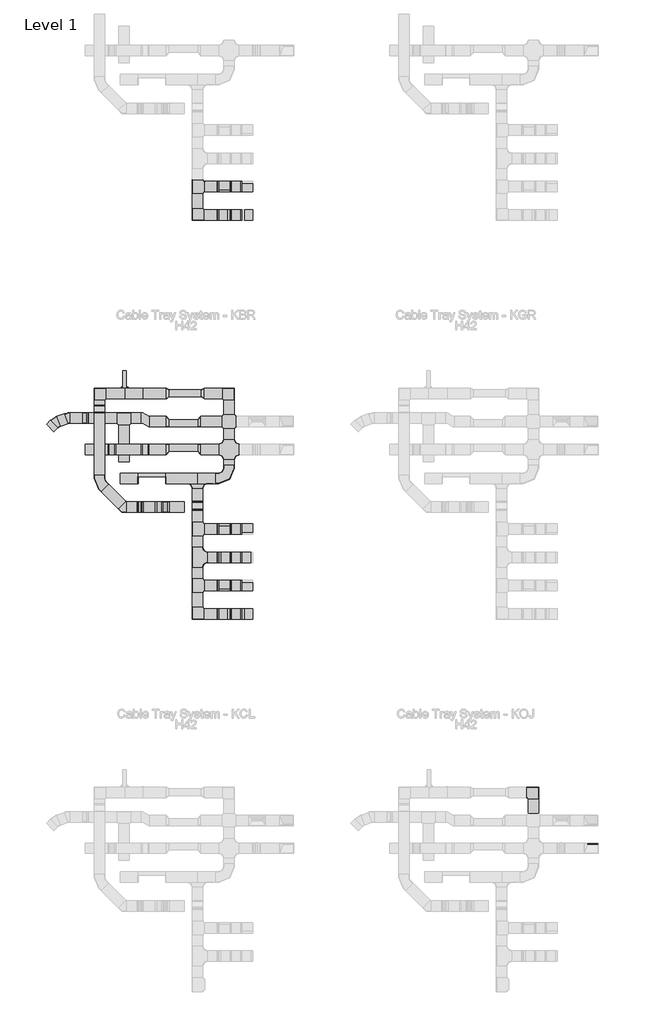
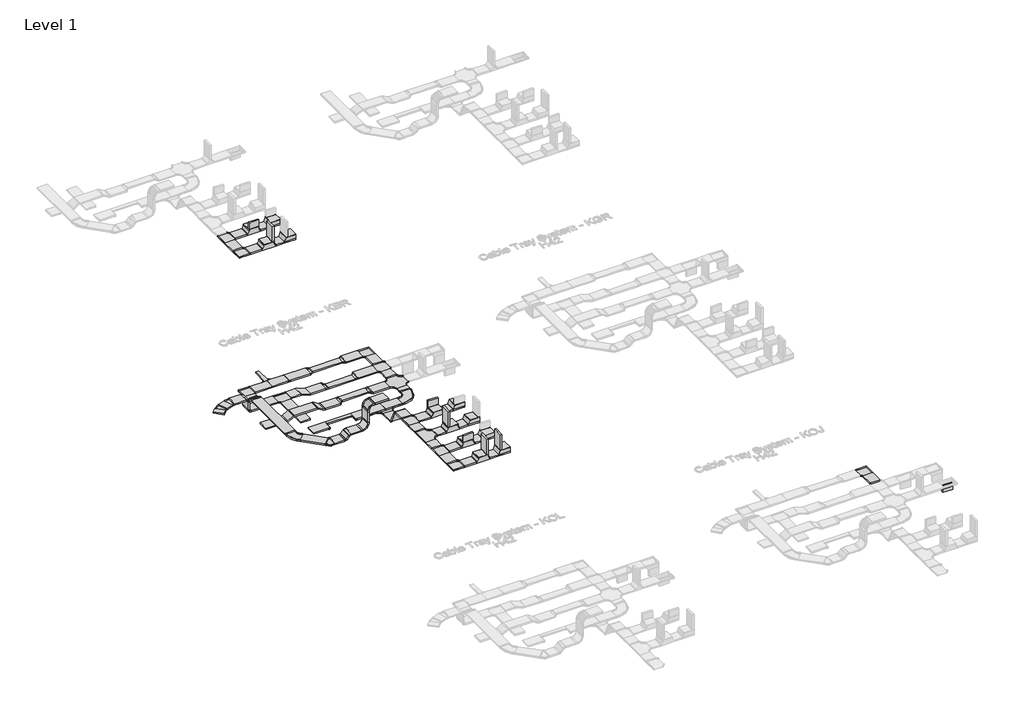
# One storey, part 4 of 32: 64 cable carrier segments, 53 cable carrier fittings.
"""IFC4 building model written with IfcOpenShell, lengths in millimetres."""

from ifc_helpers import new_model, si_unit, frame, origin, place, context, project, spatial, polyline, outline, extrude, transform, mapped, element, save
from components import cable_carrier_fitting_e5c8e40d, cable_carrier_fitting_efa56db2, cable_carrier_fitting_2b67af39, cable_carrier_fitting_94ef316f, cable_carrier_fitting_d4aa8912, cable_carrier_fitting_717dd42d, cable_carrier_fitting_b6ebce7b, cable_carrier_fitting_70c157f5, cable_carrier_fitting_f138ef00, cable_carrier_fitting_e93d4d17, cable_carrier_fitting_1724e2f5, cable_carrier_fitting_f62230c1, cable_carrier_fitting_ae8e9708, cable_carrier_fitting_2d1b2b1b, cable_carrier_fitting_6d558282, cable_carrier_fitting_b296faec, cable_carrier_fitting_47b1af77, cable_carrier_fitting_55953e98, cable_carrier_fitting_c1d9b0e5, cable_carrier_fitting_19ef2403, cable_carrier_fitting_0fee3a18, cable_carrier_fitting_93b13c26, cable_carrier_fitting_9011e538, cable_carrier_fitting_5d3ac796, cable_carrier_fitting_0e05e12f, cable_carrier_fitting_aa4403b1, cable_carrier_fitting_df0feb0d, cable_carrier_fitting_3ff81d9b, cable_carrier_fitting_7d5806c9, cable_carrier_fitting_881c8fdb, cable_carrier_fitting_302010ec, cable_carrier_fitting_0ce080ce, rkj200_h42_828cf9d7, rkj200_h42_37d9c611

model = new_model("IFC4")

# Units and contexts
model_context = context("Model", 3, world=origin())
ifc_project = project(units=[si_unit("LENGTHUNIT", "METRE", prefix="MILLI")], contexts=[model_context])

# Site, building, storey
site = spatial("IfcSite", under=ifc_project)
building = spatial("IfcBuilding", under=site)
storey = spatial("IfcBuildingStorey", under=building, Name="Level 1", Elevation=0.0)

# Cable carrier fittings
placement = place(None, origin())
cable_carrier_fitting_shape = cable_carrier_fitting_e5c8e40d(model_context)
element("IfcCableCarrierFitting", 1, ObjectType="BAKS_SUB_Corner connector : LRJ_H42", at=placement, inside=storey, context=model_context, shape_type="MappedRepresentation", body=[
    mapped(cable_carrier_fitting_shape, transform((-19375.1670538, 58130.8714214, -21.0), x_axis=(-1.0, 0.0, 0.0), y_axis=(0.0, -1.0, 0.0), z_axis=(0.0, 0.0, 1.0))),
])
element("IfcCableCarrierFitting", 2, ObjectType="BAKS_SUB_Corner connector : LRJ_H42", at=placement, inside=storey, context=model_context, shape_type="MappedRepresentation", body=[
    mapped(cable_carrier_fitting_shape, transform((-19275.1670538, 58130.8714214, -21.0), x_axis=(0.0, 1.0, 0.0), y_axis=(-1.0, 0.0, 0.0), z_axis=(0.0, 0.0, 1.0))),
])
cable_carrier_fitting_2_shape = cable_carrier_fitting_efa56db2(model_context)
element("IfcCableCarrierFitting", 3, ObjectType="BAKS_Horizontal bypass : OPZNJ_H42", at=placement, inside=storey, context=model_context, shape_type="MappedRepresentation", body=[
    mapped(cable_carrier_fitting_2_shape, transform((-18722.1670538, 57180.8714214, 0.0), x_axis=(-1.0, 0.0, 0.0), y_axis=(0.0, 1.0, 0.0), z_axis=(0.0, 0.0, -1.0))),
])
cable_carrier_fitting_3_shape = cable_carrier_fitting_2b67af39(model_context)
element("IfcCableCarrierFitting", 4, ObjectType="BAKS_Vertical bypass : OPNNJ_H42", at=placement, inside=storey, context=model_context, shape_type="MappedRepresentation", body=[
    mapped(cable_carrier_fitting_3_shape, transform((-19686.6670538, 56380.8714214, 100.0), x_axis=(-1.0, 0.0, 0.0), y_axis=(0.0, -1.0, 0.0), z_axis=(0.0, 0.0, 1.0))),
])
cable_carrier_fitting_4_shape = cable_carrier_fitting_94ef316f(model_context)
element("IfcCableCarrierFitting", 5, ObjectType="BAKS_Reducer : RK(S/L/P)L_H42", at=placement, inside=storey, context=model_context, shape_type="MappedRepresentation", body=[
    mapped(cable_carrier_fitting_4_shape, transform((-18143.1670538, 57980.8714214, 0.0), x_axis=(1.0, 0.0, 0.0), y_axis=(0.0, 1.0, 0.0), z_axis=(0.0, 0.0, 1.0))),
])
cable_carrier_fitting_5_shape = cable_carrier_fitting_d4aa8912(model_context)
element("IfcCableCarrierFitting", 6, ObjectType="BAKS_Reducer : RK(S/L/P)L_H42", at=placement, inside=storey, context=model_context, shape_type="MappedRepresentation", body=[
    mapped(cable_carrier_fitting_5_shape, transform((-17143.1670538, 57980.8714214, 0.0), x_axis=(1.0, 0.0, 0.0), y_axis=(0.0, 1.0, 0.0), z_axis=(0.0, 0.0, 1.0))),
])
cable_carrier_fitting_6_shape = cable_carrier_fitting_717dd42d(model_context)
element("IfcCableCarrierFitting", 7, ObjectType="BAKS_Horizontal bend : KKBL/KKMBL_H42", at=placement, inside=storey, context=model_context, shape_type="MappedRepresentation", body=[
    mapped(cable_carrier_fitting_6_shape, transform((-16343.1670538, 57980.8714214, 0.0), x_axis=(0.0, 1.0, 0.0), y_axis=(-1.0, 0.0, 0.0), z_axis=(0.0, 0.0, 1.0))),
])
element("IfcCableCarrierFitting", 8, ObjectType="BAKS_Horizontal bend : KKBL/KKMBL_H42", at=placement, inside=storey, context=model_context, shape_type="MappedRepresentation", body=[
    mapped(cable_carrier_fitting_6_shape, transform((-7643.1670538, 46580.8714214, 0.0), x_axis=(0.0, 1.0, 0.0), y_axis=(-1.0, 0.0, 0.0), z_axis=(0.0, 0.0, 1.0))),
])
element("IfcCableCarrierFitting", 9, ObjectType="BAKS_Horizontal bend : KKBL/KKMBL_H42", at=placement, inside=storey, context=model_context, shape_type="MappedRepresentation", body=[
    mapped(cable_carrier_fitting_6_shape, transform((-20043.1670538, 57980.8714214, 0.0), x_axis=(-1.0, 0.0, 0.0), y_axis=(0.0, -1.0, 0.0), z_axis=(0.0, 0.0, 1.0))),
])
element("IfcCableCarrierFitting", 10, ObjectType="BAKS_Horizontal bend : KKBL/KKMBL_H42", at=placement, inside=storey, context=model_context, shape_type="MappedRepresentation", body=[
    mapped(cable_carrier_fitting_6_shape, transform((-17246.1670538, 51682.0146558, 432.5277378), x_axis=(0.0, -1.0, 0.0), y_axis=(1.0, 0.0, 0.0), z_axis=(0.0, 0.0, 1.0))),
])
element("IfcCableCarrierFitting", 11, ObjectType="BAKS_Horizontal bend : KKBL/KKMBL_H42", at=placement, inside=storey, context=model_context, shape_type="MappedRepresentation", body=[
    mapped(cable_carrier_fitting_6_shape, transform((-17246.1670538, 63082.0146558, 432.5277378), x_axis=(0.0, -1.0, 0.0), y_axis=(1.0, 0.0, 0.0), z_axis=(0.0, 0.0, 1.0))),
])
cable_carrier_fitting_7_shape = cable_carrier_fitting_b6ebce7b(model_context)
element("IfcCableCarrierFitting", 12, ObjectType="BAKS_Horizontal tee : TKL_H42", at=placement, inside=storey, context=model_context, shape_type="MappedRepresentation", body=[
    mapped(cable_carrier_fitting_7_shape, transform((-19343.6670538, 57280.8714214, 0.0), x_axis=(1.0, 0.0, 0.0), y_axis=(0.0, 1.0, 0.0), z_axis=(0.0, 0.0, 1.0))),
])
element("IfcCableCarrierFitting", 13, ObjectType="BAKS_Horizontal tee : TKL_H42", at=placement, inside=storey, context=model_context, shape_type="MappedRepresentation", body=[
    mapped(cable_carrier_fitting_7_shape, transform((-17246.1670538, 52489.2974728, 432.5277378), x_axis=(0.0, 1.0, 0.0), y_axis=(-1.0, 0.0, 0.0), z_axis=(0.0, 0.0, 1.0))),
])
element("IfcCableCarrierFitting", 14, ObjectType="BAKS_Horizontal tee : TKL_H42", at=placement, inside=storey, context=model_context, shape_type="MappedRepresentation", body=[
    mapped(cable_carrier_fitting_7_shape, transform((-17246.1670538, 54103.8631068, 432.5277378), x_axis=(0.0, 1.0, 0.0), y_axis=(-1.0, 0.0, 0.0), z_axis=(0.0, 0.0, 1.0))),
])
element("IfcCableCarrierFitting", 15, ObjectType="BAKS_Horizontal tee : TKL_H42", at=placement, inside=storey, context=model_context, shape_type="MappedRepresentation", body=[
    mapped(cable_carrier_fitting_7_shape, transform((-17246.1670538, 63889.2974728, 432.5277378), x_axis=(0.0, 1.0, 0.0), y_axis=(-1.0, 0.0, 0.0), z_axis=(0.0, 0.0, 1.0))),
])
cable_carrier_fitting_8_shape = cable_carrier_fitting_70c157f5(model_context)
element("IfcCableCarrierFitting", 16, ObjectType="BAKS_Reducer : RK(S/L/P)L_H42", at=placement, inside=storey, context=model_context, shape_type="MappedRepresentation", body=[
    mapped(cable_carrier_fitting_8_shape, transform((-18143.1670538, 57180.8714214, 0.0), x_axis=(1.0, 0.0, 0.0), y_axis=(0.0, 1.0, 0.0), z_axis=(0.0, 0.0, 1.0))),
])
element("IfcCableCarrierFitting", 17, ObjectType="BAKS_Reducer : RK(S/L/P)L_H42", at=placement, inside=storey, context=model_context, shape_type="MappedRepresentation", body=[
    mapped(cable_carrier_fitting_8_shape, transform((-17143.1670538, 56380.8714214, 0.0), x_axis=(-1.0, 0.0, 0.0), y_axis=(0.0, -1.0, 0.0), z_axis=(0.0, 0.0, 1.0))),
])
cable_carrier_fitting_9_shape = cable_carrier_fitting_f138ef00(model_context)
element("IfcCableCarrierFitting", 18, ObjectType="BAKS_Reducer : RK(S/L/P)L_H42", at=placement, inside=storey, context=model_context, shape_type="MappedRepresentation", body=[
    mapped(cable_carrier_fitting_9_shape, transform((-17143.1670538, 57180.8714214, 0.0), x_axis=(-1.0, 0.0, 0.0), y_axis=(0.0, -1.0, 0.0), z_axis=(0.0, 0.0, 1.0))),
])
element("IfcCableCarrierFitting", 19, ObjectType="BAKS_Reducer : RK(S/L/P)L_H42", at=placement, inside=storey, context=model_context, shape_type="MappedRepresentation", body=[
    mapped(cable_carrier_fitting_9_shape, transform((-18143.1670538, 56380.8714214, 0.0), x_axis=(1.0, 0.0, 0.0), y_axis=(0.0, 1.0, 0.0), z_axis=(0.0, 0.0, 1.0))),
])
cable_carrier_fitting_10_shape = cable_carrier_fitting_e93d4d17(model_context)
element("IfcCableCarrierFitting", 20, ObjectType="BAKS_Plate connector : LPMU_H42", at=placement, inside=storey, context=model_context, shape_type="MappedRepresentation", body=[
    mapped(cable_carrier_fitting_10_shape, transform((-18803.1670538, 57980.8714214, 0.0), x_axis=(1.0, 0.0, 0.0), y_axis=(0.0, 1.0, 0.0), z_axis=(0.0, 0.0, 1.0))),
])
cable_carrier_fitting_11_shape = cable_carrier_fitting_1724e2f5(model_context)
element("IfcCableCarrierFitting", 21, ObjectType="BAKS_Vertical bypass : OPNNJ_H42", at=placement, inside=storey, context=model_context, shape_type="MappedRepresentation", body=[
    mapped(cable_carrier_fitting_11_shape, transform((-18743.6670538, 56380.8714214, 0.0), x_axis=(-1.0, 0.0, 0.0), y_axis=(0.0, -1.0, 0.0), z_axis=(0.0, 0.0, 1.0))),
])
element("IfcCableCarrierFitting", 22, ObjectType="BAKS_Vertical bypass : OPNNJ_H42", at=placement, inside=storey, context=model_context, shape_type="MappedRepresentation", body=[
    mapped(cable_carrier_fitting_11_shape, transform((-20043.1670538, 57539.3714214, 0.0), x_axis=(0.0, -1.0, 0.0), y_axis=(1.0, 0.0, 0.0), z_axis=(0.0, 0.0, 1.0))),
])
cable_carrier_fitting_12_shape = cable_carrier_fitting_f62230c1(model_context)
element("IfcCableCarrierFitting", 23, ObjectType="BAKS_Vertical bend LU : LUNJ/LUMNJ_H42", at=placement, inside=storey, context=model_context, shape_type="MappedRepresentation", body=[
    mapped(cable_carrier_fitting_12_shape, transform((-20443.6670538, 57280.8714214, 0.0), x_axis=(-1.0, 0.0, 0.0), y_axis=(0.0, 0.0, 1.0), z_axis=(0.0, 1.0, 0.0))),
])
element("IfcCableCarrierFitting", 24, ObjectType="BAKS_Vertical bend LU : LUNJ/LUMNJ_H42", at=placement, inside=storey, context=model_context, shape_type="MappedRepresentation", body=[
    mapped(cable_carrier_fitting_12_shape, transform((-20443.6670538, 57280.8714214, 400.0), x_axis=(0.0, 0.0, 1.0), y_axis=(-1.0, 0.0, 0.0), z_axis=(0.0, -1.0, 0.0))),
])
cable_carrier_fitting_13_shape = cable_carrier_fitting_ae8e9708(model_context)
element("IfcCableCarrierFitting", 25, ObjectType="BAKS_Horizontal bend : KKBL/KKMBL_H42", at=placement, inside=storey, context=model_context, shape_type="MappedRepresentation", body=[
    mapped(cable_carrier_fitting_13_shape, transform((-19343.6670538, 54731.3714214, 100.0), x_axis=(0.7071067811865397, -0.7071067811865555, 0.0), y_axis=(0.7071067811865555, 0.7071067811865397, 0.0), z_axis=(0.0, 0.0, 1.0))),
])
cable_carrier_fitting_14_shape = cable_carrier_fitting_2d1b2b1b(model_context)
element("IfcCableCarrierFitting", 26, ObjectType="BAKS_Vertical bend LU : LUNJ/LUMNJ_H42", at=placement, inside=storey, context=model_context, shape_type="MappedRepresentation", body=[
    mapped(cable_carrier_fitting_14_shape, transform((-18943.6670538, 54731.3714214, 100.0), x_axis=(1.0, 0.0, 0.0), y_axis=(0.0, 0.0, 1.0), z_axis=(0.0, -1.0, 0.0))),
])
element("IfcCableCarrierFitting", 27, ObjectType="BAKS_Vertical bend LU : LUNJ/LUMNJ_H42", at=placement, inside=storey, context=model_context, shape_type="MappedRepresentation", body=[
    mapped(cable_carrier_fitting_14_shape, transform((-18806.2659001, 54731.3714214, 237.4011537), x_axis=(0.7071067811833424, 0.0, 0.7071067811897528), y_axis=(0.7071067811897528, 0.0, -0.7071067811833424), z_axis=(0.0, 1.0, 0.0))),
])
cable_carrier_fitting_15_shape = cable_carrier_fitting_6d558282(model_context)
element("IfcCableCarrierFitting", 28, ObjectType="BAKS_Vertical bend adjustable : LLL/LLJ_H42", at=placement, inside=storey, context=model_context, shape_type="MappedRepresentation", body=[
    mapped(cable_carrier_fitting_15_shape, transform((-18246.2659001, 54731.3714214, 237.4011537), x_axis=(1.0, 0.0, 0.0), y_axis=(0.0, 0.0, 1.0), z_axis=(0.0, -1.0, 0.0))),
])
element("IfcCableCarrierFitting", 29, ObjectType="BAKS_Vertical bend adjustable : LLL/LLJ_H42", at=placement, inside=storey, context=model_context, shape_type="MappedRepresentation", body=[
    mapped(cable_carrier_fitting_15_shape, transform((-18246.2659001, 54731.3714214, 977.4011537), x_axis=(0.0, 0.0, 1.0), y_axis=(1.0, 0.0, 0.0), z_axis=(0.0, 1.0, 0.0))),
])
cable_carrier_fitting_16_shape = cable_carrier_fitting_b296faec(model_context)
element("IfcCableCarrierFitting", 30, ObjectType="BAKS_Horizontal addon tee : TKDJ_H42", at=placement, inside=storey, context=model_context, shape_type="MappedRepresentation", body=[
    mapped(cable_carrier_fitting_16_shape, transform((-17246.1670538, 55555.8714214, 0.0), x_axis=(1.0, 0.0, 0.0), y_axis=(0.0, 1.0, 0.0), z_axis=(0.0, 0.0, 1.0))),
])
cable_carrier_fitting_17_shape = cable_carrier_fitting_47b1af77(model_context)
element("IfcCableCarrierFitting", 31, ObjectType="BAKS_Articulated_connector : LGJ_H42", at=placement, inside=storey, context=model_context, shape_type="MappedRepresentation", body=[
    mapped(cable_carrier_fitting_17_shape, transform((-17246.1670538, 54858.7056523, 0.0), x_axis=(0.0, -1.0, 0.0), y_axis=(0.0, 0.0, 1.0), z_axis=(-1.0, 0.0, 0.0))),
])
element("IfcCableCarrierFitting", 32, ObjectType="BAKS_Articulated_connector : LGJ_H42", at=placement, inside=storey, context=model_context, shape_type="MappedRepresentation", body=[
    mapped(cable_carrier_fitting_17_shape, transform((-17246.1670538, 54657.0146558, 432.5277378), x_axis=(0.0, -0.42261826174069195, 0.9063077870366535), y_axis=(0.0, -0.9063077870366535, -0.42261826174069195), z_axis=(1.0, 0.0, 0.0))),
])
cable_carrier_fitting_18_shape = cable_carrier_fitting_55953e98(model_context)
element("IfcCableCarrierFitting", 33, ObjectType="BAKS_Horizontal bend radius : KKPJ/KKMPJ_H42", at=placement, inside=storey, context=model_context, shape_type="MappedRepresentation", body=[
    mapped(cable_carrier_fitting_18_shape, transform((-20043.1670538, 55430.8714214, 100.0), x_axis=(0.0, -1.0, 0.0), y_axis=(1.0, 0.0, 0.0), z_axis=(0.0, 0.0, 1.0))),
])
cable_carrier_fitting_19_shape = cable_carrier_fitting_c1d9b0e5(model_context)
element("IfcCableCarrierFitting", 34, ObjectType="BAKS_Horizontal bend radius : KKPJ/KKMPJ_H42", at=placement, inside=storey, context=model_context, shape_type="MappedRepresentation", body=[
    mapped(cable_carrier_fitting_19_shape, transform((-16343.1670538, 55555.8714214, 0.0), x_axis=(1.0, 0.0, 0.0), y_axis=(0.0, 1.0, 0.0), z_axis=(0.0, 0.0, 1.0))),
])
cable_carrier_fitting_20_shape = cable_carrier_fitting_19ef2403(model_context)
element("IfcCableCarrierFitting", 35, ObjectType="BAKS_Adjustable bend : KKRPJ_H42", at=placement, inside=storey, context=model_context, shape_type="MappedRepresentation", body=[
    mapped(cable_carrier_fitting_20_shape, transform((-21281.9563973, 57157.7441698, 400.0), x_axis=(-0.9396926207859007, -0.34202014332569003, 0.0), y_axis=(0.34202014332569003, -0.9396926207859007, 0.0), z_axis=(0.0, 0.0, 1.0))),
])
cable_carrier_fitting_21_shape = cable_carrier_fitting_0fee3a18(model_context)
element("IfcCableCarrierFitting", 36, ObjectType="BAKS_Adjustable bend : KKRPJ_H42", at=placement, inside=storey, context=model_context, shape_type="MappedRepresentation", body=[
    mapped(cable_carrier_fitting_21_shape, transform((-20943.6670538, 57280.8714214, 400.0), x_axis=(-1.0, 0.0, 0.0), y_axis=(0.0, -1.0, 0.0), z_axis=(0.0, 0.0, 1.0))),
])
cable_carrier_fitting_22_shape = cable_carrier_fitting_93b13c26(model_context)
element("IfcCableCarrierFitting", 37, ObjectType="BAKS_Horizontal tee radius : TKPJ_H42", at=placement, inside=storey, context=model_context, shape_type="MappedRepresentation", body=[
    mapped(cable_carrier_fitting_22_shape, transform((-17246.1670538, 53296.5802898, 432.5277378), x_axis=(0.0, 1.0, 0.0), y_axis=(-1.0, 0.0, 0.0), z_axis=(0.0, 0.0, 1.0))),
])
cable_carrier_fitting_23_shape = cable_carrier_fitting_9011e538(model_context)
element("IfcCableCarrierFitting", 38, ObjectType="BAKS_Horizontal cross over : CZKL_H42", at=placement, inside=storey, context=model_context, shape_type="MappedRepresentation", body=[
    mapped(cable_carrier_fitting_23_shape, transform((-16343.1670538, 57180.8714214, 0.0), x_axis=(0.0, -1.0, 0.0), y_axis=(1.0, 0.0, 0.0), z_axis=(0.0, 0.0, 1.0))),
])
cable_carrier_fitting_24_shape = cable_carrier_fitting_5d3ac796(model_context)
element("IfcCableCarrierFitting", 39, ObjectType="BAKS_Horizontal cross over radius : CZKPJ_H42", at=placement, inside=storey, context=model_context, shape_type="MappedRepresentation", body=[
    mapped(cable_carrier_fitting_24_shape, transform((-16343.1670538, 56380.8714214, 0.0), x_axis=(0.0, -1.0, 0.0), y_axis=(1.0, 0.0, 0.0), z_axis=(0.0, 0.0, 1.0))),
])
cable_carrier_fitting_25_shape = cable_carrier_fitting_0e05e12f(model_context)
element("IfcCableCarrierFitting", 40, ObjectType="BAKS_Universal elbow : KRUMJ_H42", at=placement, inside=storey, context=model_context, shape_type="MappedRepresentation", body=[
    mapped(cable_carrier_fitting_25_shape, transform((-16006.1670538, 54103.8631068, 432.5277378), x_axis=(1.0, 0.0, 0.0), y_axis=(0.0, 1.0, 0.0), z_axis=(0.0, 0.0, 1.0))),
])
cable_carrier_fitting_26_shape = cable_carrier_fitting_aa4403b1(model_context)
element("IfcCableCarrierFitting", 41, ObjectType="BAKS_Universal elbow : KRUMJ_H42", at=placement, inside=storey, context=model_context, shape_type="MappedRepresentation", body=[
    mapped(cable_carrier_fitting_26_shape, transform((-16006.1670538, 52489.2974728, 432.5277378), x_axis=(1.0, 0.0, 0.0), y_axis=(0.0, 1.0, 0.0), z_axis=(0.0, 0.0, 1.0))),
])
element("IfcCableCarrierFitting", 42, ObjectType="BAKS_Universal elbow : KRUMJ_H42", at=placement, inside=storey, context=model_context, shape_type="MappedRepresentation", body=[
    mapped(cable_carrier_fitting_26_shape, transform((-16006.1670538, 63889.2974728, 432.5277378), x_axis=(1.0, 0.0, 0.0), y_axis=(0.0, 1.0, 0.0), z_axis=(0.0, 0.0, 1.0))),
])
cable_carrier_fitting_27_shape = cable_carrier_fitting_df0feb0d(model_context)
element("IfcCableCarrierFitting", 43, ObjectType="BAKS_Universal elbow : KRUMJ_H42", at=placement, inside=storey, context=model_context, shape_type="MappedRepresentation", body=[
    mapped(cable_carrier_fitting_27_shape, transform((-16006.1670538, 51682.0146558, 432.5277378), x_axis=(1.0, 0.0, 0.0), y_axis=(0.0, 1.0, 0.0), z_axis=(0.0, 0.0, 1.0))),
])
element("IfcCableCarrierFitting", 44, ObjectType="BAKS_Universal elbow : KRUMJ_H42", at=placement, inside=storey, context=model_context, shape_type="MappedRepresentation", body=[
    mapped(cable_carrier_fitting_27_shape, transform((-16006.1670538, 63082.0146558, 432.5277378), x_axis=(1.0, 0.0, 0.0), y_axis=(0.0, 1.0, 0.0), z_axis=(0.0, 0.0, 1.0))),
])
cable_carrier_fitting_28_shape = cable_carrier_fitting_3ff81d9b(model_context)
element("IfcCableCarrierFitting", 45, ObjectType="BAKS_Universal tee : TRUNJ_H42", at=placement, inside=storey, context=model_context, shape_type="MappedRepresentation", body=[
    mapped(cable_carrier_fitting_28_shape, transform((-16473.5199976, 54103.8631068, 432.5277378), x_axis=(-1.0, 0.0, 0.0), y_axis=(0.0, -1.0, 0.0), z_axis=(0.0, 0.0, 1.0))),
])
cable_carrier_fitting_29_shape = cable_carrier_fitting_7d5806c9(model_context)
element("IfcCableCarrierFitting", 46, ObjectType="BAKS_Universal tee : TRUNJ_H42", at=placement, inside=storey, context=model_context, shape_type="MappedRepresentation", body=[
    mapped(cable_carrier_fitting_29_shape, transform((-16473.5199976, 52489.2974728, 432.5277378), x_axis=(-1.0, 0.0, 0.0), y_axis=(0.0, -1.0, 0.0), z_axis=(0.0, 0.0, 1.0))),
])
element("IfcCableCarrierFitting", 47, ObjectType="BAKS_Universal tee : TRUNJ_H42", at=placement, inside=storey, context=model_context, shape_type="MappedRepresentation", body=[
    mapped(cable_carrier_fitting_29_shape, transform((-16473.5199976, 63889.2974728, 432.5277378), x_axis=(-1.0, 0.0, 0.0), y_axis=(0.0, -1.0, 0.0), z_axis=(0.0, 0.0, 1.0))),
])
cable_carrier_fitting_30_shape = cable_carrier_fitting_881c8fdb(model_context)
element("IfcCableCarrierFitting", 48, ObjectType="BAKS_Universal elbow : KRUMJ_H42", at=placement, inside=storey, context=model_context, shape_type="MappedRepresentation", body=[
    mapped(cable_carrier_fitting_30_shape, transform((-16006.1670538, 53296.5802898, 432.5277378), x_axis=(1.0, 0.0, 0.0), y_axis=(0.0, 1.0, 0.0), z_axis=(0.0, 0.0, 1.0))),
])
cable_carrier_fitting_31_shape = cable_carrier_fitting_302010ec(model_context)
element("IfcCableCarrierFitting", 49, ObjectType="BAKS_Universal tee : TRUNJ_H42", at=placement, inside=storey, context=model_context, shape_type="MappedRepresentation", body=[
    mapped(cable_carrier_fitting_31_shape, transform((-16473.5199976, 53296.5802898, 432.5277378), x_axis=(-1.0, 0.0, 0.0), y_axis=(0.0, -1.0, 0.0), z_axis=(0.0, 0.0, 1.0))),
])
cable_carrier_fitting_32_shape = cable_carrier_fitting_0ce080ce(model_context)
element("IfcCableCarrierFitting", 50, ObjectType="BAKS_Universal tee : TRUNJ_H42", at=placement, inside=storey, context=model_context, shape_type="MappedRepresentation", body=[
    mapped(cable_carrier_fitting_32_shape, transform((-16473.5199976, 51682.0146558, 432.5277378), x_axis=(-1.0, 0.0, 0.0), y_axis=(0.0, -1.0, 0.0), z_axis=(0.0, 0.0, 1.0))),
])
element("IfcCableCarrierFitting", 51, ObjectType="BAKS_Universal tee : TRUNJ_H42", at=placement, inside=storey, context=model_context, shape_type="MappedRepresentation", body=[
    mapped(cable_carrier_fitting_32_shape, transform((-16473.5199976, 63082.0146558, 432.5277378), x_axis=(-1.0, 0.0, 0.0), y_axis=(0.0, -1.0, 0.0), z_axis=(0.0, 0.0, 1.0))),
])
rkj200_h42_shape = rkj200_h42_828cf9d7(model_context)
element("IfcCableCarrierFitting", 52, ObjectType="BAKS_Angle reducer : RKJ200_H42", at=placement, inside=storey, context=model_context, shape_type="MappedRepresentation", body=[
    mapped(rkj200_h42_shape, transform((-18153.1670538, 55555.8714214, 0.0), x_axis=(-1.0, 0.0, 0.0), y_axis=(0.0, -1.0, 0.0), z_axis=(0.0, 0.0, 1.0))),
])
rkj200_h42_2_shape = rkj200_h42_37d9c611(model_context)
element("IfcCableCarrierFitting", 53, ObjectType="BAKS_Angle reducer : RKJ200_H42", at=placement, inside=storey, context=model_context, shape_type="MappedRepresentation", body=[
    mapped(rkj200_h42_2_shape, transform((-18943.1670538, 55555.8714214, 0.0), x_axis=(1.0, 0.0, 0.0), y_axis=(0.0, 1.0, 0.0), z_axis=(0.0, 0.0, 1.0))),
])

# Cable carrier segments
element("IfcCableCarrierSegment", 54, ObjectType="BAKS - Cable tray H42 (KBR)", at=placement, inside=storey, context=model_context, shape_type="SweptSolid", body=[
    extrude(outline(polyline([(-18802.1670538, 57830.8714214), (-18802.1670538, 58130.8714214), (-18143.1670538, 58130.8714214), (-18143.1670538, 57830.8714214), (-18802.1670538, 57830.8714214)])), frame((0.0, 0.0, -21.0), z_axis=(0.0, 0.0, 1.0), x_axis=(1.0, 0.0, 0.0)), (0.0, 0.0, 1.0), 42.0),
])
element("IfcCableCarrierSegment", 55, ObjectType="BAKS - Cable tray H42 (KBR)", at=placement, inside=storey, context=model_context, shape_type="SweptSolid", body=[
    extrude(outline(polyline([(-18048.1670538, 57880.8714214), (-18048.1670538, 58080.8714214), (-17143.1670538, 58080.8714214), (-17143.1670538, 57880.8714214), (-18048.1670538, 57880.8714214)])), frame((0.0, 0.0, -21.0), z_axis=(0.0, 0.0, 1.0), x_axis=(1.0, 0.0, 0.0)), (0.0, 0.0, 1.0), 42.0),
])
element("IfcCableCarrierSegment", 56, ObjectType="BAKS - Cable tray H42 (KBR)", at=placement, inside=storey, context=model_context, shape_type="SweptSolid", body=[
    extrude(outline(polyline([(-17048.1670538, 57830.8714214), (-17048.1670538, 58130.8714214), (-16539.1670538, 58130.8714214), (-16539.1670538, 57830.8714214), (-17048.1670538, 57830.8714214)])), frame((0.0, 0.0, -21.0), z_axis=(0.0, 0.0, 1.0), x_axis=(1.0, 0.0, 0.0)), (0.0, 0.0, 1.0), 42.0),
])
element("IfcCableCarrierSegment", 57, ObjectType="BAKS - Cable tray H42 (KBR)", at=placement, inside=storey, context=model_context, shape_type="SweptSolid", body=[
    extrude(outline(polyline([(-16493.1670538, 57784.8714214), (-16193.1670538, 57784.8714214), (-16193.1670538, 57385.8714214), (-16493.1670538, 57385.8714214), (-16493.1670538, 57784.8714214)])), frame((0.0, 0.0, -21.0), z_axis=(0.0, 0.0, 1.0), x_axis=(1.0, 0.0, 0.0)), (0.0, 0.0, 1.0), 42.0),
])
element("IfcCableCarrierSegment", 58, ObjectType="BAKS - Cable tray H42 (KBR)", at=placement, inside=storey, context=model_context, shape_type="SweptSolid", body=[
    extrude(outline(polyline([(-16493.1670538, 56975.8714214), (-16193.1670538, 56975.8714214), (-16193.1670538, 56671.8714214), (-16493.1670538, 56671.8714214), (-16493.1670538, 56975.8714214)])), frame((0.0, 0.0, -21.0), z_axis=(0.0, 0.0, 1.0), x_axis=(1.0, 0.0, 0.0)), (0.0, 0.0, 1.0), 42.0),
])
element("IfcCableCarrierSegment", 59, ObjectType="BAKS - Cable tray H42 (KBR)", at=placement, inside=storey, context=model_context, shape_type="SweptSolid", body=[
    extrude(outline(polyline([(-17238.1670538, 57230.8714214), (-17238.1670538, 57030.8714214), (-18048.1670538, 57030.8714214), (-18048.1670538, 57230.8714214), (-17238.1670538, 57230.8714214)])), frame((0.0, 0.0, -21.0), z_axis=(0.0, 0.0, 1.0), x_axis=(1.0, 0.0, 0.0)), (0.0, 0.0, 1.0), 42.0),
])
element("IfcCableCarrierSegment", 60, ObjectType="BAKS - Cable tray H42 (KBR)", at=placement, inside=storey, context=model_context, shape_type="SweptSolid", body=[
    extrude(outline(polyline([(-18600.6670538, 57030.8714214), (-18600.6670538, 57330.8714214), (-18143.1670538, 57330.8714214), (-18143.1670538, 57030.8714214), (-18600.6670538, 57030.8714214)])), frame((0.0, 0.0, -21.0), z_axis=(0.0, 0.0, 1.0), x_axis=(1.0, 0.0, 0.0)), (0.0, 0.0, 1.0), 42.0),
])
element("IfcCableCarrierSegment", 61, ObjectType="BAKS - Cable tray H42 (KBR)", at=placement, inside=storey, context=model_context, shape_type="SweptSolid", body=[
    extrude(outline(polyline([(-16548.1670538, 57330.8714214), (-16548.1670538, 57030.8714214), (-17143.1670538, 57030.8714214), (-17143.1670538, 57330.8714214), (-16548.1670538, 57330.8714214)])), frame((0.0, 0.0, -21.0), z_axis=(0.0, 0.0, 1.0), x_axis=(1.0, 0.0, 0.0)), (0.0, 0.0, 1.0), 42.0),
])
element("IfcCableCarrierSegment", 62, ObjectType="BAKS - Cable tray H42 (KBR)", at=placement, inside=storey, context=model_context, shape_type="SweptSolid", body=[
    extrude(outline(polyline([(-17238.1670538, 56530.8714214), (-17238.1670538, 56330.8714214), (-18048.1670538, 56330.8714214), (-18048.1670538, 56530.8714214), (-17238.1670538, 56530.8714214)])), frame((0.0, 0.0, -21.0), z_axis=(0.0, 0.0, 1.0), x_axis=(1.0, 0.0, 0.0)), (0.0, 0.0, 1.0), 42.0),
])
element("IfcCableCarrierSegment", 63, ObjectType="BAKS - Cable tray H42 (KBR)", at=placement, inside=storey, context=model_context, shape_type="SweptSolid", body=[
    extrude(outline(polyline([(-18622.1670538, 56230.8714214), (-18622.1670538, 56530.8714214), (-18143.1670538, 56530.8714214), (-18143.1670538, 56230.8714214), (-18622.1670538, 56230.8714214)])), frame((0.0, 0.0, -21.0), z_axis=(0.0, 0.0, 1.0), x_axis=(1.0, 0.0, 0.0)), (0.0, 0.0, 1.0), 42.0),
])
element("IfcCableCarrierSegment", 64, ObjectType="BAKS - Cable tray H42 (KBR)", at=placement, inside=storey, context=model_context, shape_type="SweptSolid", body=[
    extrude(outline(polyline([(-16634.1670538, 56530.8714214), (-16634.1670538, 56230.8714214), (-17143.1670538, 56230.8714214), (-17143.1670538, 56530.8714214), (-16634.1670538, 56530.8714214)])), frame((0.0, 0.0, -21.0), z_axis=(0.0, 0.0, 1.0), x_axis=(1.0, 0.0, 0.0)), (0.0, 0.0, 1.0), 42.0),
])
element("IfcCableCarrierSegment", 65, ObjectType="BAKS - Cable tray H42 (KBR)", at=placement, inside=storey, context=model_context, shape_type="SweptSolid", body=[
    extrude(outline(polyline([(-19548.6670538, 57430.8714214), (-19548.6670538, 57130.8714214), (-20367.6670538, 57130.8714214), (-20367.6670538, 57430.8714214), (-19548.6670538, 57430.8714214)])), frame((0.0, 0.0, -21.0), z_axis=(0.0, 0.0, 1.0), x_axis=(1.0, 0.0, 0.0)), (0.0, 0.0, 1.0), 42.0),
])
element("IfcCableCarrierSegment", 66, ObjectType="BAKS - Cable tray H42 (KBR)", at=placement, inside=storey, context=model_context, shape_type="SweptSolid", body=[
    extrude(outline(polyline([(-18865.1670538, 56530.8714214), (-18865.1670538, 56230.8714214), (-19565.1670538, 56230.8714214), (-19565.1670538, 56530.8714214), (-18865.1670538, 56530.8714214)])), frame((0.0, 0.0, 79.0), z_axis=(0.0, 0.0, 1.0), x_axis=(1.0, 0.0, 0.0)), (0.0, 0.0, 1.0), 42.0),
])
element("IfcCableCarrierSegment", 67, ObjectType="BAKS - Cable tray H42 (KBR)", at=placement, inside=storey, context=model_context, shape_type="SweptSolid", body=[
    extrude(outline(polyline([(-20193.1670538, 57784.8714214), (-19893.1670538, 57784.8714214), (-19893.1670538, 57660.8714214), (-20193.1670538, 57660.8714214), (-20193.1670538, 57784.8714214)])), frame((0.0, 0.0, -21.0), z_axis=(0.0, 0.0, 1.0), x_axis=(1.0, 0.0, 0.0)), (0.0, 0.0, 1.0), 42.0),
])
element("IfcCableCarrierSegment", 68, ObjectType="BAKS - Cable tray H42 (KBR)", at=placement, inside=storey, context=model_context, shape_type="SweptSolid", body=[
    extrude(outline(polyline([(-19493.6670538, 57075.8714214), (-19193.6670538, 57075.8714214), (-19193.6670538, 56030.8714214), (-19493.6670538, 56030.8714214), (-19493.6670538, 57075.8714214)])), frame((0.0, 0.0, -21.0), z_axis=(0.0, 0.0, 1.0), x_axis=(1.0, 0.0, 0.0)), (0.0, 0.0, 1.0), 42.0),
])
element("IfcCableCarrierSegment", 69, ObjectType="BAKS - Cable tray H42 (KBR)", at=placement, inside=storey, context=model_context, shape_type="SweptSolid", body=[
    extrude(outline(polyline([(-18843.6670538, 57430.8714214), (-18843.6670538, 57130.8714214), (-19138.6670538, 57130.8714214), (-19138.6670538, 57430.8714214), (-18843.6670538, 57430.8714214)])), frame((0.0, 0.0, -21.0), z_axis=(0.0, 0.0, 1.0), x_axis=(1.0, 0.0, 0.0)), (0.0, 0.0, 1.0), 42.0),
])
element("IfcCableCarrierSegment", 70, ObjectType="BAKS - Cable tray H42 (KBR)", at=placement, inside=storey, context=model_context, shape_type="SweptSolid", body=[
    extrude(outline(polyline([(-19808.1670538, 56530.8714214), (-19808.1670538, 56230.8714214), (-20443.6670538, 56230.8714214), (-20443.6670538, 56530.8714214), (-19808.1670538, 56530.8714214)])), frame((0.0, 0.0, -21.0), z_axis=(0.0, 0.0, 1.0), x_axis=(1.0, 0.0, 0.0)), (0.0, 0.0, 1.0), 42.0),
])
element("IfcCableCarrierSegment", 71, ObjectType="BAKS - Cable tray H42 (KBR)", at=placement, inside=storey, context=model_context, shape_type="SweptSolid", body=[
    extrude(outline(polyline([(-20877.5322294, 57130.8714214), (-20877.5322294, 57430.8714214), (-20519.6670538, 57430.8714214), (-20519.6670538, 57130.8714214), (-20877.5322294, 57130.8714214)])), frame((0.0, 0.0, 379.0), z_axis=(0.0, 0.0, 1.0), x_axis=(1.0, 0.0, 0.0)), (0.0, 0.0, 1.0), 42.0),
])
element("IfcCableCarrierSegment", 72, ObjectType="BAKS - Cable tray H42 (KBR)", at=placement, inside=storey, context=model_context, shape_type="SweptSolid", body=[
    extrude(outline(polyline([(-20464.6670538, 57430.8714214), (-20422.6670538, 57430.8714214), (-20422.6670538, 57130.8714214), (-20464.6670538, 57130.8714214), (-20464.6670538, 57430.8714214)])), frame((0.0, 0.0, 76.0), z_axis=(0.0, 0.0, 1.0), x_axis=(1.0, 0.0, 0.0)), (0.0, 0.0, 1.0), 248.0),
])
element("IfcCableCarrierSegment", 73, ObjectType="BAKS - Cable tray H42 (KBR)", at=placement, inside=storey, context=model_context, shape_type="SweptSolid", body=[
    extrude(outline(polyline([(-19893.1670538, 55650.9933545), (-20193.1670538, 55650.9933545), (-20193.1670538, 57417.8714214), (-19893.1670538, 57417.8714214), (-19893.1670538, 55650.9933545)])), frame((0.0, 0.0, 79.0), z_axis=(0.0, 0.0, 1.0), x_axis=(1.0, 0.0, 0.0)), (0.0, 0.0, 1.0), 42.0),
])
element("IfcCableCarrierSegment", 74, ObjectType="BAKS - Cable tray H42 (KBR)", at=placement, inside=storey, context=model_context, shape_type="SweptSolid", body=[
    extrude(outline(polyline([(-19993.5833594, 55169.1556926), (-19781.451325, 55381.287727), (-19295.422321, 54895.258723), (-19507.5543554, 54683.1266887), (-19993.5833594, 55169.1556926)])), frame((0.0, 0.0, 79.0), z_axis=(0.0, 0.0, 1.0), x_axis=(1.0, 0.0, 0.0)), (0.0, 0.0, 1.0), 42.0),
])
element("IfcCableCarrierSegment", 75, ObjectType="BAKS - Cable tray H42 (KBR)", at=placement, inside=storey, context=model_context, shape_type="SweptSolid", body=[
    extrude(outline(polyline([(-19261.8954091, 54581.3714214), (-19261.8954091, 54881.3714214), (-18978.0762167, 54881.3714214), (-18978.0762167, 54581.3714214), (-19261.8954091, 54581.3714214)])), frame((0.0, 0.0, 79.0), z_axis=(0.0, 0.0, 1.0), x_axis=(1.0, 0.0, 0.0)), (0.0, 0.0, 1.0), 42.0),
])
element("IfcCableCarrierSegment", 76, ObjectType="BAKS - Cable tray H42 (KBR)", at=placement, inside=storey, context=model_context, shape_type="SweptSolid", body=[
    extrude(outline(polyline([(21.0, 1.4628667), (-21.0, 1.4628667), (-21.0, 301.4628667), (21.0, 301.4628667), (21.0, 1.4628667)])), frame((-18919.3361013, 54579.9085547, 124.3309524), z_axis=(0.7071067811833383, 0.0, 0.7071067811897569), x_axis=(0.7071067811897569, 0.0, -0.7071067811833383)), (0.0, 0.0, 1.0), 125.4962492),
])
element("IfcCableCarrierSegment", 77, ObjectType="BAKS - Cable tray H42 (KBR)", at=placement, inside=storey, context=model_context, shape_type="SweptSolid", body=[
    extrude(outline(polyline([(-18771.8567371, 54581.3714214), (-18771.8567371, 54881.3714214), (-18457.2659001, 54881.3714214), (-18457.2659001, 54581.3714214), (-18771.8567371, 54581.3714214)])), frame((0.0, 0.0, 216.4011537), z_axis=(0.0, 0.0, 1.0), x_axis=(1.0, 0.0, 0.0)), (0.0, 0.0, 1.0), 42.0),
])
element("IfcCableCarrierSegment", 78, ObjectType="BAKS - Cable tray H42 (KBR)", at=placement, inside=storey, context=model_context, shape_type="SweptSolid", body=[
    extrude(outline(polyline([(-18225.2659001, 54581.3714214), (-18267.2659001, 54581.3714214), (-18267.2659001, 54881.3714214), (-18225.2659001, 54881.3714214), (-18225.2659001, 54581.3714214)])), frame((0.0, 0.0, 448.4011537), z_axis=(0.0, 0.0, 1.0), x_axis=(1.0, 0.0, 0.0)), (0.0, 0.0, 1.0), 318.0),
])
element("IfcCableCarrierSegment", 79, ObjectType="BAKS - Cable tray H42 (KBR)", at=placement, inside=storey, context=model_context, shape_type="SweptSolid", body=[
    extrude(outline(polyline([(-18035.2659001, 54581.3714214), (-18035.2659001, 54881.3714214), (-17626.2659001, 54881.3714214), (-17626.2659001, 54581.3714214), (-18035.2659001, 54581.3714214)])), frame((0.0, 0.0, 956.4011537), z_axis=(0.0, 0.0, 1.0), x_axis=(1.0, 0.0, 0.0)), (0.0, 0.0, 1.0), 42.0),
])
element("IfcCableCarrierSegment", 80, ObjectType="BAKS - Cable tray H42 (KBR)", at=placement, inside=storey, context=model_context, shape_type="SweptSolid", body=[
    extrude(outline(polyline([(-17246.7091451, 55705.8714214), (-17246.7091451, 55405.8714214), (-18153.1670538, 55405.8714214), (-18153.1670538, 55705.8714214), (-17246.7091451, 55705.8714214)])), frame((0.0, 0.0, -21.0), z_axis=(0.0, 0.0, 1.0), x_axis=(1.0, 0.0, 0.0)), (0.0, 0.0, 1.0), 42.0),
])
element("IfcCableCarrierSegment", 81, ObjectType="BAKS - Cable tray H42 (KBR)", at=placement, inside=storey, context=model_context, shape_type="SweptSolid", body=[
    extrude(outline(polyline([(-18938.1670538, 55605.8714214), (-18938.1670538, 55705.8714214), (-18158.1670538, 55705.8714214), (-18158.1670538, 55605.8714214), (-18938.1670538, 55605.8714214)])), frame((0.0, 0.0, -21.0), z_axis=(0.0, 0.0, 1.0), x_axis=(1.0, 0.0, 0.0)), (0.0, 0.0, 1.0), 42.0),
])
element("IfcCableCarrierSegment", 82, ObjectType="BAKS - Cable tray H42 (KBR)", at=placement, inside=storey, context=model_context, shape_type="SweptSolid", body=[
    extrude(outline(polyline([(-16193.1670538, 55945.8714214), (-16493.1670538, 55945.8714214), (-16493.1670538, 56089.8714214), (-16193.1670538, 56089.8714214), (-16193.1670538, 55945.8714214)])), frame((0.0, 0.0, -21.0), z_axis=(0.0, 0.0, 1.0), x_axis=(1.0, 0.0, 0.0)), (0.0, 0.0, 1.0), 42.0),
])
element("IfcCableCarrierSegment", 83, ObjectType="BAKS - Cable tray H42 (KBR)", at=placement, inside=storey, context=model_context, shape_type="SweptSolid", body=[
    extrude(outline(polyline([(-19443.1670538, 55405.8714214), (-19443.1670538, 55705.8714214), (-18943.1670538, 55705.8714214), (-18943.1670538, 55405.8714214), (-19443.1670538, 55405.8714214)])), frame((0.0, 0.0, -21.0), z_axis=(0.0, 0.0, 1.0), x_axis=(1.0, 0.0, 0.0)), (0.0, 0.0, 1.0), 42.0),
])
element("IfcCableCarrierSegment", 84, ObjectType="BAKS - Cable tray H42 (KBR)", at=placement, inside=storey, context=model_context, shape_type="SweptSolid", body=[
    extrude(outline(polyline([(-16733.1670538, 55705.8714214), (-16733.1670538, 55405.8714214), (-17245.6249624, 55405.8714214), (-17245.6249624, 55705.8714214), (-16733.1670538, 55705.8714214)])), frame((0.0, 0.0, -21.0), z_axis=(0.0, 0.0, 1.0), x_axis=(1.0, 0.0, 0.0)), (0.0, 0.0, 1.0), 42.0),
])
element("IfcCableCarrierSegment", 85, ObjectType="BAKS - Cable tray H42 (KBR)", at=placement, inside=storey, context=model_context, shape_type="SweptSolid", body=[
    extrude(outline(polyline([(-17396.1670538, 55259.8714214), (-17096.1670538, 55259.8714214), (-17096.1670538, 54894.8255329), (-17396.1670538, 54894.8255329), (-17396.1670538, 55259.8714214)])), frame((0.0, 0.0, -21.0), z_axis=(0.0, 0.0, 1.0), x_axis=(1.0, 0.0, 0.0)), (0.0, 0.0, 1.0), 42.0),
])
element("IfcCableCarrierSegment", 86, ObjectType="BAKS - Cable tray H42 (KBR)", at=placement, inside=storey, context=model_context, shape_type="SweptSolid", body=[
    extrude(outline(polyline([(-150.0, 130.4628667), (-150.0, 172.4628667), (150.0, 172.4628667), (150.0, 130.4628667), (-150.0, 130.4628667)])), frame((-17246.1670538, 54706.1687555, -31.2752443), z_axis=(0.0, -0.42261826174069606, 0.9063077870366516), x_axis=(1.0, 0.0, 0.0)), (0.0, 0.0, 1.0), 405.0017938),
])
element("IfcCableCarrierSegment", 87, ObjectType="BAKS - Cable tray H42 (KBR)", at=placement, inside=storey, context=model_context, shape_type="SweptSolid", body=[
    extrude(outline(polyline([(-21057.1164817, 57399.2058724), (-20954.5104387, 57117.2980862), (-21156.1437833, 57043.9095505), (-21258.7498263, 57325.8173368), (-21057.1164817, 57399.2058724)])), frame((0.0, 0.0, 379.0), z_axis=(0.0, 0.0, 1.0), x_axis=(1.0, 0.0, 0.0)), (0.0, 0.0, 1.0), 42.0),
])
element("IfcCableCarrierSegment", 88, ObjectType="BAKS - Cable tray H42 (KBR)", at=placement, inside=storey, context=model_context, shape_type="SweptSolid", body=[
    extrude(outline(polyline([(-21444.0899379, 57207.7426635), (-21231.9579036, 56995.6106291), (-21344.3432656, 56883.2252671), (-21556.4753, 57095.3573015), (-21444.0899379, 57207.7426635)])), frame((0.0, 0.0, 379.0), z_axis=(0.0, 0.0, 1.0), x_axis=(1.0, 0.0, 0.0)), (0.0, 0.0, 1.0), 42.0),
])
element("IfcCableCarrierSegment", 89, ObjectType="BAKS - Cable tray H42 (KOJ)", at=placement, inside=storey, context=model_context, shape_type="SweptSolid", body=[
    extrude(outline(polyline([(-7793.1670538, 46384.8714214), (-7493.1670538, 46384.8714214), (-7493.1670538, 45985.8714214), (-7793.1670538, 45985.8714214), (-7793.1670538, 46384.8714214)])), frame((0.0, 0.0, -21.0), z_axis=(0.0, 0.0, 1.0), x_axis=(1.0, 0.0, 0.0)), (0.0, 0.0, 1.0), 42.0),
])
element("IfcCableCarrierSegment", 90, ObjectType="BAKS - Cable tray H42 (KBR)", at=placement, inside=storey, context=model_context, shape_type="SweptSolid", body=[
    extrude(outline(polyline([(-19325.6670538, 58130.8714214), (-19325.6670538, 57830.8714214), (-19847.1670538, 57830.8714214), (-19847.1670538, 58130.8714214), (-19325.6670538, 58130.8714214)])), frame((0.0, 0.0, -21.0), z_axis=(0.0, 0.0, 1.0), x_axis=(1.0, 0.0, 0.0)), (0.0, 0.0, 1.0), 42.0),
])
element("IfcCableCarrierSegment", 91, ObjectType="BAKS - Cable tray H42 (KBR)", at=placement, inside=storey, context=model_context, shape_type="SweptSolid", body=[
    extrude(outline(polyline([(-19275.1670538, 58130.8714214), (-19375.1670538, 58130.8714214), (-19375.1670538, 58630.8714214), (-19275.1670538, 58630.8714214), (-19275.1670538, 58130.8714214)])), frame((0.0, 0.0, -21.0), z_axis=(0.0, 0.0, 1.0), x_axis=(1.0, 0.0, 0.0)), (0.0, 0.0, 1.0), 42.0),
])
element("IfcCableCarrierSegment", 92, ObjectType="BAKS - Cable tray H42 (KBR)", at=placement, inside=storey, context=model_context, shape_type="SweptSolid", body=[
    extrude(outline(polyline([(-18803.1670538, 58130.8714214), (-18803.1670538, 57830.8714214), (-19324.6670538, 57830.8714214), (-19324.6670538, 58130.8714214), (-18803.1670538, 58130.8714214)])), frame((0.0, 0.0, -21.0), z_axis=(0.0, 0.0, 1.0), x_axis=(1.0, 0.0, 0.0)), (0.0, 0.0, 1.0), 42.0),
])
element("IfcCableCarrierSegment", 93, ObjectType="BAKS - Cable tray H42 (KBR)", at=placement, inside=storey, context=model_context, shape_type="SweptSolid", body=[
    extrude(outline(polyline([(-17396.1670538, 52284.2974728), (-17096.1670538, 52284.2974728), (-17096.1670538, 51878.0146558), (-17396.1670538, 51878.0146558), (-17396.1670538, 52284.2974728)])), frame((0.0, 0.0, 411.5277378), z_axis=(0.0, 0.0, 1.0), x_axis=(1.0, 0.0, 0.0)), (0.0, 0.0, 1.0), 42.0),
])
element("IfcCableCarrierSegment", 94, ObjectType="BAKS - Cable tray H42 (KBR)", at=placement, inside=storey, context=model_context, shape_type="SweptSolid", body=[
    extrude(outline(polyline([(-16263.5199976, 51532.0146558), (-16263.5199976, 51832.0146558), (-16006.1670538, 51832.0146558), (-16006.1670538, 51532.0146558), (-16263.5199976, 51532.0146558)])), frame((0.0, 0.0, 411.5277378), z_axis=(0.0, 0.0, 1.0), x_axis=(1.0, 0.0, 0.0)), (0.0, 0.0, 1.0), 42.0),
])
element("IfcCableCarrierSegment", 95, ObjectType="BAKS - Cable tray H42 (KBR)", at=placement, inside=storey, context=model_context, shape_type="SweptSolid", body=[
    extrude(outline(polyline([(-16263.5199976, 52339.2974728), (-16263.5199976, 52639.2974728), (-16006.1670538, 52639.2974728), (-16006.1670538, 52339.2974728), (-16263.5199976, 52339.2974728)])), frame((0.0, 0.0, 411.5277378), z_axis=(0.0, 0.0, 1.0), x_axis=(1.0, 0.0, 0.0)), (0.0, 0.0, 1.0), 42.0),
])
element("IfcCableCarrierSegment", 96, ObjectType="BAKS - Cable tray H42 (KBR)", at=placement, inside=storey, context=model_context, shape_type="SweptSolid", body=[
    extrude(outline(polyline([(-17396.1670538, 53001.5802898), (-17096.1670538, 53001.5802898), (-17096.1670538, 52694.2974728), (-17396.1670538, 52694.2974728), (-17396.1670538, 53001.5802898)])), frame((0.0, 0.0, 411.5277378), z_axis=(0.0, 0.0, 1.0), x_axis=(1.0, 0.0, 0.0)), (0.0, 0.0, 1.0), 42.0),
])
element("IfcCableCarrierSegment", 97, ObjectType="BAKS - Cable tray H42 (KBR)", at=placement, inside=storey, context=model_context, shape_type="SweptSolid", body=[
    extrude(outline(polyline([(-16263.5199976, 53146.5802898), (-16263.5199976, 53446.5802898), (-16006.1670538, 53446.5802898), (-16006.1670538, 53146.5802898), (-16263.5199976, 53146.5802898)])), frame((0.0, 0.0, 411.5277378), z_axis=(0.0, 0.0, 1.0), x_axis=(1.0, 0.0, 0.0)), (0.0, 0.0, 1.0), 42.0),
])
element("IfcCableCarrierSegment", 98, ObjectType="BAKS - Cable tray H42 (KBR)", at=placement, inside=storey, context=model_context, shape_type="SweptSolid", body=[
    extrude(outline(polyline([(-17396.1670538, 53898.8631068), (-17096.1670538, 53898.8631068), (-17096.1670538, 53591.5802898), (-17396.1670538, 53591.5802898), (-17396.1670538, 53898.8631068)])), frame((0.0, 0.0, 411.5277378), z_axis=(0.0, 0.0, 1.0), x_axis=(1.0, 0.0, 0.0)), (0.0, 0.0, 1.0), 42.0),
])
element("IfcCableCarrierSegment", 99, ObjectType="BAKS - Cable tray H42 (KBR)", at=placement, inside=storey, context=model_context, shape_type="SweptSolid", body=[
    extrude(outline(polyline([(-16263.5199976, 53953.8631068), (-16263.5199976, 54253.8631068), (-16006.1670538, 54253.8631068), (-16006.1670538, 53953.8631068), (-16263.5199976, 53953.8631068)])), frame((0.0, 0.0, 411.5277378), z_axis=(0.0, 0.0, 1.0), x_axis=(1.0, 0.0, 0.0)), (0.0, 0.0, 1.0), 42.0),
])
element("IfcCableCarrierSegment", 100, ObjectType="BAKS - Cable tray H42 (KBR)", at=placement, inside=storey, context=model_context, shape_type="SweptSolid", body=[
    extrude(outline(polyline([(-17096.1670538, 54308.8631068), (-17396.1670538, 54308.8631068), (-17396.1670538, 54620.8947751), (-17096.1670538, 54620.8947751), (-17096.1670538, 54308.8631068)])), frame((0.0, 0.0, 411.5277378), z_axis=(0.0, 0.0, 1.0), x_axis=(1.0, 0.0, 0.0)), (0.0, 0.0, 1.0), 42.0),
])
element("IfcCableCarrierSegment", 101, ObjectType="BAKS - Cable tray H42 (KBR)", at=placement, inside=storey, context=model_context, shape_type="SweptSolid", body=[
    extrude(outline(polyline([(-17041.1670538, 53953.8631068), (-17041.1670538, 54253.8631068), (-16683.5199976, 54253.8631068), (-16683.5199976, 53953.8631068), (-17041.1670538, 53953.8631068)])), frame((0.0, 0.0, 411.5277378), z_axis=(0.0, 0.0, 1.0), x_axis=(1.0, 0.0, 0.0)), (0.0, 0.0, 1.0), 42.0),
])
element("IfcCableCarrierSegment", 102, ObjectType="BAKS - Cable tray H42 (KBR)", at=placement, inside=storey, context=model_context, shape_type="SweptSolid", body=[
    extrude(outline(polyline([(-16951.1670538, 53146.5802898), (-16951.1670538, 53446.5802898), (-16683.5199976, 53446.5802898), (-16683.5199976, 53146.5802898), (-16951.1670538, 53146.5802898)])), frame((0.0, 0.0, 411.5277378), z_axis=(0.0, 0.0, 1.0), x_axis=(1.0, 0.0, 0.0)), (0.0, 0.0, 1.0), 42.0),
])
element("IfcCableCarrierSegment", 103, ObjectType="BAKS - Cable tray H42 (KBR)", at=placement, inside=storey, context=model_context, shape_type="SweptSolid", body=[
    extrude(outline(polyline([(-17041.1670538, 52339.2974728), (-17041.1670538, 52639.2974728), (-16683.5199976, 52639.2974728), (-16683.5199976, 52339.2974728), (-17041.1670538, 52339.2974728)])), frame((0.0, 0.0, 411.5277378), z_axis=(0.0, 0.0, 1.0), x_axis=(1.0, 0.0, 0.0)), (0.0, 0.0, 1.0), 42.0),
])
element("IfcCableCarrierSegment", 104, ObjectType="BAKS - Cable tray H42 (KBR)", at=placement, inside=storey, context=model_context, shape_type="SweptSolid", body=[
    extrude(outline(polyline([(-17050.1670538, 51532.0146558), (-17050.1670538, 51832.0146558), (-16683.5199976, 51832.0146558), (-16683.5199976, 51532.0146558), (-17050.1670538, 51532.0146558)])), frame((0.0, 0.0, 411.5277378), z_axis=(0.0, 0.0, 1.0), x_axis=(1.0, 0.0, 0.0)), (0.0, 0.0, 1.0), 42.0),
])
element("IfcCableCarrierSegment", 105, ObjectType="BAKS - Cable tray H42 (KBR)", at=placement, inside=storey, context=model_context, shape_type="SweptSolid", body=[
    extrude(outline(polyline([(-16323.5199976, 54253.8631068), (-16323.5199976, 54203.8631068), (-16623.5199976, 54203.8631068), (-16623.5199976, 54253.8631068), (-16323.5199976, 54253.8631068)])), frame((0.0, 0.0, 586.5277378), z_axis=(0.0, 0.0, 1.0), x_axis=(1.0, 0.0, 0.0)), (0.0, 0.0, 1.0), 209.7997464),
])
element("IfcCableCarrierSegment", 106, ObjectType="BAKS - Cable tray H42 (KBR)", at=placement, inside=storey, context=model_context, shape_type="SweptSolid", body=[
    extrude(outline(polyline([(-16623.5199976, 53446.5802898), (-16573.5199976, 53446.5802898), (-16573.5199976, 53146.5802898), (-16623.5199976, 53146.5802898), (-16623.5199976, 53446.5802898)])), frame((0.0, 0.0, 586.5277378), z_axis=(0.0, 0.0, 1.0), x_axis=(1.0, 0.0, 0.0)), (0.0, 0.0, 1.0), 500.0),
])
element("IfcCableCarrierSegment", 107, ObjectType="BAKS - Cable tray H42 (KBR)", at=placement, inside=storey, context=model_context, shape_type="SweptSolid", body=[
    extrude(outline(polyline([(-16623.5199976, 52339.2974728), (-16623.5199976, 52389.2974728), (-16323.5199976, 52389.2974728), (-16323.5199976, 52339.2974728), (-16623.5199976, 52339.2974728)])), frame((0.0, 0.0, 586.5277378), z_axis=(0.0, 0.0, 1.0), x_axis=(1.0, 0.0, 0.0)), (0.0, 0.0, 1.0), 209.7997464),
])
element("IfcCableCarrierSegment", 108, ObjectType="BAKS - Cable tray H42 (KBR)", at=placement, inside=storey, context=model_context, shape_type="SweptSolid", body=[
    extrude(outline(polyline([(-16373.5199976, 51832.0146558), (-16323.5199976, 51832.0146558), (-16323.5199976, 51532.0146558), (-16373.5199976, 51532.0146558), (-16373.5199976, 51832.0146558)])), frame((0.0, 0.0, 586.5277378), z_axis=(0.0, 0.0, 1.0), x_axis=(1.0, 0.0, 0.0)), (0.0, 0.0, 1.0), 500.0),
])
element("IfcCableCarrierSegment", 109, ObjectType="BAKS - Cable tray H42 (KBR)", at=placement, inside=storey, context=model_context, shape_type="SweptSolid", body=[
    extrude(outline(polyline([(-15956.1670538, 51832.0146558), (-15906.1670538, 51832.0146558), (-15906.1670538, 51532.0146558), (-15956.1670538, 51532.0146558), (-15956.1670538, 51832.0146558)])), frame((0.0, 0.0, 586.5277378), z_axis=(0.0, 0.0, 1.0), x_axis=(1.0, 0.0, 0.0)), (0.0, 0.0, 1.0), 500.0),
])
element("IfcCableCarrierSegment", 110, ObjectType="BAKS - Cable tray H42 (KBJ)", at=placement, inside=storey, context=model_context, shape_type="SweptSolid", body=[
    extrude(outline(polyline([(-17396.1670538, 63684.2974728), (-17096.1670538, 63684.2974728), (-17096.1670538, 63278.0146558), (-17396.1670538, 63278.0146558), (-17396.1670538, 63684.2974728)])), frame((0.0, 0.0, 411.5277378), z_axis=(0.0, 0.0, 1.0), x_axis=(1.0, 0.0, 0.0)), (0.0, 0.0, 1.0), 42.0),
])
element("IfcCableCarrierSegment", 111, ObjectType="BAKS - Cable tray H42 (KBJ)", at=placement, inside=storey, context=model_context, shape_type="SweptSolid", body=[
    extrude(outline(polyline([(-16263.5199976, 62932.0146558), (-16263.5199976, 63232.0146558), (-16006.1670538, 63232.0146558), (-16006.1670538, 62932.0146558), (-16263.5199976, 62932.0146558)])), frame((0.0, 0.0, 411.5277378), z_axis=(0.0, 0.0, 1.0), x_axis=(1.0, 0.0, 0.0)), (0.0, 0.0, 1.0), 42.0),
])
element("IfcCableCarrierSegment", 112, ObjectType="BAKS - Cable tray H42 (KBJ)", at=placement, inside=storey, context=model_context, shape_type="SweptSolid", body=[
    extrude(outline(polyline([(-16263.5199976, 63739.2974728), (-16263.5199976, 64039.2974728), (-16006.1670538, 64039.2974728), (-16006.1670538, 63739.2974728), (-16263.5199976, 63739.2974728)])), frame((0.0, 0.0, 411.5277378), z_axis=(0.0, 0.0, 1.0), x_axis=(1.0, 0.0, 0.0)), (0.0, 0.0, 1.0), 42.0),
])
element("IfcCableCarrierSegment", 113, ObjectType="BAKS - Cable tray H42 (KBJ)", at=placement, inside=storey, context=model_context, shape_type="SweptSolid", body=[
    extrude(outline(polyline([(-17041.1670538, 63739.2974728), (-17041.1670538, 64039.2974728), (-16683.5199976, 64039.2974728), (-16683.5199976, 63739.2974728), (-17041.1670538, 63739.2974728)])), frame((0.0, 0.0, 411.5277378), z_axis=(0.0, 0.0, 1.0), x_axis=(1.0, 0.0, 0.0)), (0.0, 0.0, 1.0), 42.0),
])
element("IfcCableCarrierSegment", 114, ObjectType="BAKS - Cable tray H42 (KBJ)", at=placement, inside=storey, context=model_context, shape_type="SweptSolid", body=[
    extrude(outline(polyline([(-17050.1670538, 62932.0146558), (-17050.1670538, 63232.0146558), (-16683.5199976, 63232.0146558), (-16683.5199976, 62932.0146558), (-17050.1670538, 62932.0146558)])), frame((0.0, 0.0, 411.5277378), z_axis=(0.0, 0.0, 1.0), x_axis=(1.0, 0.0, 0.0)), (0.0, 0.0, 1.0), 42.0),
])
element("IfcCableCarrierSegment", 115, ObjectType="BAKS - Cable tray H42 (KBJ)", at=placement, inside=storey, context=model_context, shape_type="SweptSolid", body=[
    extrude(outline(polyline([(-16623.5199976, 63739.2974728), (-16623.5199976, 63789.2974728), (-16323.5199976, 63789.2974728), (-16323.5199976, 63739.2974728), (-16623.5199976, 63739.2974728)])), frame((0.0, 0.0, 586.5277378), z_axis=(0.0, 0.0, 1.0), x_axis=(1.0, 0.0, 0.0)), (0.0, 0.0, 1.0), 209.7997464),
])
element("IfcCableCarrierSegment", 116, ObjectType="BAKS - Cable tray H42 (KBJ)", at=placement, inside=storey, context=model_context, shape_type="SweptSolid", body=[
    extrude(outline(polyline([(-16373.5199976, 63232.0146558), (-16323.5199976, 63232.0146558), (-16323.5199976, 62932.0146558), (-16373.5199976, 62932.0146558), (-16373.5199976, 63232.0146558)])), frame((0.0, 0.0, 586.5277378), z_axis=(0.0, 0.0, 1.0), x_axis=(1.0, 0.0, 0.0)), (0.0, 0.0, 1.0), 500.0),
])
element("IfcCableCarrierSegment", 117, ObjectType="BAKS - Cable tray H42 (KOJ)", at=placement, inside=storey, context=model_context, shape_type="SweptSolid", body=[
    extrude(outline(polyline([(-5792.1670538, 45088.8714214), (-6092.1670538, 45088.8714214), (-6092.1670538, 45130.8714214), (-5792.1670538, 45130.8714214), (-5792.1670538, 45088.8714214)])), frame((0.0, 0.0, -330.7997464), z_axis=(0.0, 0.0, 1.0), x_axis=(1.0, 0.0, 0.0)), (0.0, 0.0, 1.0), 209.7997464),
])

save(model, "model.ifc")
